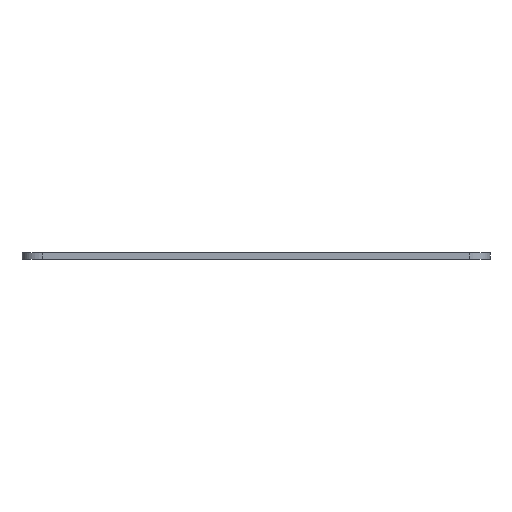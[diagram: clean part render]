
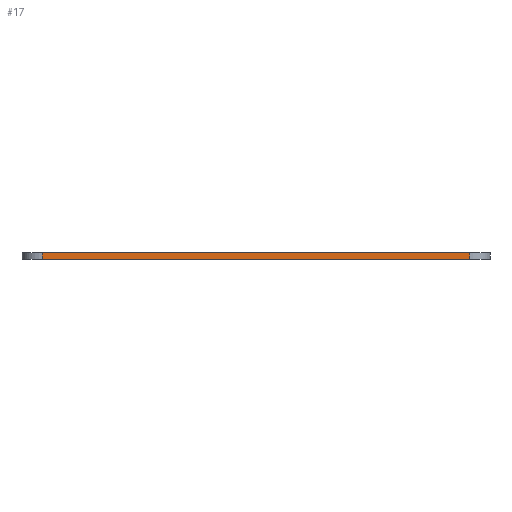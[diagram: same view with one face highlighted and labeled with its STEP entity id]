
A CAD part, left-side view. The second image highlights one B-rep face of the part: STEP entity #17.
In plain terms, the highlighted planar face has unit normal (-1, 0, 0).
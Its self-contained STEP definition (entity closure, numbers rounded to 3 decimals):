
#17 = ADVANCED_FACE('',(#18),#32,.F.);
#18 = FACE_BOUND('',#19,.F.);
#19 = EDGE_LOOP('',(#20,#55,#83,#111));
#20 = ORIENTED_EDGE('',*,*,#21,.F.);
#21 = EDGE_CURVE('',#22,#24,#26,.T.);
#22 = VERTEX_POINT('',#23);
#23 = CARTESIAN_POINT('',(-240.,-192.,6.));
#24 = VERTEX_POINT('',#25);
#25 = CARTESIAN_POINT('',(-240.,192.,6.));
#26 = SURFACE_CURVE('',#27,(#31,#43),.PCURVE_S1.);
#27 = LINE('',#28,#29);
#28 = CARTESIAN_POINT('',(-240.,-210.,6.));
#29 = VECTOR('',#30,1.);
#30 = DIRECTION('',(0.,1.,0.));
#31 = PCURVE('',#32,#37);
#32 = PLANE('',#33);
#33 = AXIS2_PLACEMENT_3D('',#34,#35,#36);
#34 = CARTESIAN_POINT('',(-240.,-210.,0.));
#35 = DIRECTION('',(1.,0.,0.));
#36 = DIRECTION('',(0.,0.,1.));
#37 = DEFINITIONAL_REPRESENTATION('',(#38),#42);
#38 = LINE('',#39,#40);
#39 = CARTESIAN_POINT('',(6.,0.));
#40 = VECTOR('',#41,1.);
#41 = DIRECTION('',(0.,-1.));
#42 = ( GEOMETRIC_REPRESENTATION_CONTEXT(2) 
PARAMETRIC_REPRESENTATION_CONTEXT() REPRESENTATION_CONTEXT('2D SPACE',''
  ) );
#43 = PCURVE('',#44,#49);
#44 = PLANE('',#45);
#45 = AXIS2_PLACEMENT_3D('',#46,#47,#48);
#46 = CARTESIAN_POINT('',(-240.,-210.,6.));
#47 = DIRECTION('',(0.,0.,1.));
#48 = DIRECTION('',(1.,0.,0.));
#49 = DEFINITIONAL_REPRESENTATION('',(#50),#54);
#50 = LINE('',#51,#52);
#51 = CARTESIAN_POINT('',(0.,0.));
#52 = VECTOR('',#53,1.);
#53 = DIRECTION('',(0.,1.));
#54 = ( GEOMETRIC_REPRESENTATION_CONTEXT(2) 
PARAMETRIC_REPRESENTATION_CONTEXT() REPRESENTATION_CONTEXT('2D SPACE',''
  ) );
#55 = ORIENTED_EDGE('',*,*,#56,.F.);
#56 = EDGE_CURVE('',#57,#22,#59,.T.);
#57 = VERTEX_POINT('',#58);
#58 = CARTESIAN_POINT('',(-240.,-192.,0.));
#59 = SURFACE_CURVE('',#60,(#64,#71),.PCURVE_S1.);
#60 = LINE('',#61,#62);
#61 = CARTESIAN_POINT('',(-240.,-192.,0.));
#62 = VECTOR('',#63,1.);
#63 = DIRECTION('',(0.,0.,1.));
#64 = PCURVE('',#32,#65);
#65 = DEFINITIONAL_REPRESENTATION('',(#66),#70);
#66 = LINE('',#67,#68);
#67 = CARTESIAN_POINT('',(0.,-18.));
#68 = VECTOR('',#69,1.);
#69 = DIRECTION('',(1.,0.));
#70 = ( GEOMETRIC_REPRESENTATION_CONTEXT(2) 
PARAMETRIC_REPRESENTATION_CONTEXT() REPRESENTATION_CONTEXT('2D SPACE',''
  ) );
#71 = PCURVE('',#72,#77);
#72 = CYLINDRICAL_SURFACE('',#73,18.);
#73 = AXIS2_PLACEMENT_3D('',#74,#75,#76);
#74 = CARTESIAN_POINT('',(-222.,-192.,0.));
#75 = DIRECTION('',(0.,0.,1.));
#76 = DIRECTION('',(-1.,-0.,0.));
#77 = DEFINITIONAL_REPRESENTATION('',(#78),#82);
#78 = LINE('',#79,#80);
#79 = CARTESIAN_POINT('',(0.,0.));
#80 = VECTOR('',#81,1.);
#81 = DIRECTION('',(0.,1.));
#82 = ( GEOMETRIC_REPRESENTATION_CONTEXT(2) 
PARAMETRIC_REPRESENTATION_CONTEXT() REPRESENTATION_CONTEXT('2D SPACE',''
  ) );
#83 = ORIENTED_EDGE('',*,*,#84,.T.);
#84 = EDGE_CURVE('',#57,#85,#87,.T.);
#85 = VERTEX_POINT('',#86);
#86 = CARTESIAN_POINT('',(-240.,192.,0.));
#87 = SURFACE_CURVE('',#88,(#92,#99),.PCURVE_S1.);
#88 = LINE('',#89,#90);
#89 = CARTESIAN_POINT('',(-240.,-210.,0.));
#90 = VECTOR('',#91,1.);
#91 = DIRECTION('',(0.,1.,0.));
#92 = PCURVE('',#32,#93);
#93 = DEFINITIONAL_REPRESENTATION('',(#94),#98);
#94 = LINE('',#95,#96);
#95 = CARTESIAN_POINT('',(0.,0.));
#96 = VECTOR('',#97,1.);
#97 = DIRECTION('',(0.,-1.));
#98 = ( GEOMETRIC_REPRESENTATION_CONTEXT(2) 
PARAMETRIC_REPRESENTATION_CONTEXT() REPRESENTATION_CONTEXT('2D SPACE',''
  ) );
#99 = PCURVE('',#100,#105);
#100 = PLANE('',#101);
#101 = AXIS2_PLACEMENT_3D('',#102,#103,#104);
#102 = CARTESIAN_POINT('',(-240.,-210.,0.));
#103 = DIRECTION('',(0.,0.,1.));
#104 = DIRECTION('',(1.,0.,0.));
#105 = DEFINITIONAL_REPRESENTATION('',(#106),#110);
#106 = LINE('',#107,#108);
#107 = CARTESIAN_POINT('',(0.,0.));
#108 = VECTOR('',#109,1.);
#109 = DIRECTION('',(0.,1.));
#110 = ( GEOMETRIC_REPRESENTATION_CONTEXT(2) 
PARAMETRIC_REPRESENTATION_CONTEXT() REPRESENTATION_CONTEXT('2D SPACE',''
  ) );
#111 = ORIENTED_EDGE('',*,*,#112,.T.);
#112 = EDGE_CURVE('',#85,#24,#113,.T.);
#113 = SURFACE_CURVE('',#114,(#118,#125),.PCURVE_S1.);
#114 = LINE('',#115,#116);
#115 = CARTESIAN_POINT('',(-240.,192.,0.));
#116 = VECTOR('',#117,1.);
#117 = DIRECTION('',(0.,0.,1.));
#118 = PCURVE('',#32,#119);
#119 = DEFINITIONAL_REPRESENTATION('',(#120),#124);
#120 = LINE('',#121,#122);
#121 = CARTESIAN_POINT('',(0.,-402.));
#122 = VECTOR('',#123,1.);
#123 = DIRECTION('',(1.,0.));
#124 = ( GEOMETRIC_REPRESENTATION_CONTEXT(2) 
PARAMETRIC_REPRESENTATION_CONTEXT() REPRESENTATION_CONTEXT('2D SPACE',''
  ) );
#125 = PCURVE('',#126,#131);
#126 = CYLINDRICAL_SURFACE('',#127,18.);
#127 = AXIS2_PLACEMENT_3D('',#128,#129,#130);
#128 = CARTESIAN_POINT('',(-222.,192.,0.));
#129 = DIRECTION('',(0.,0.,1.));
#130 = DIRECTION('',(-1.,-0.,0.));
#131 = DEFINITIONAL_REPRESENTATION('',(#132),#136);
#132 = LINE('',#133,#134);
#133 = CARTESIAN_POINT('',(-0.,0.));
#134 = VECTOR('',#135,1.);
#135 = DIRECTION('',(-0.,1.));
#136 = ( GEOMETRIC_REPRESENTATION_CONTEXT(2) 
PARAMETRIC_REPRESENTATION_CONTEXT() REPRESENTATION_CONTEXT('2D SPACE',''
  ) );
